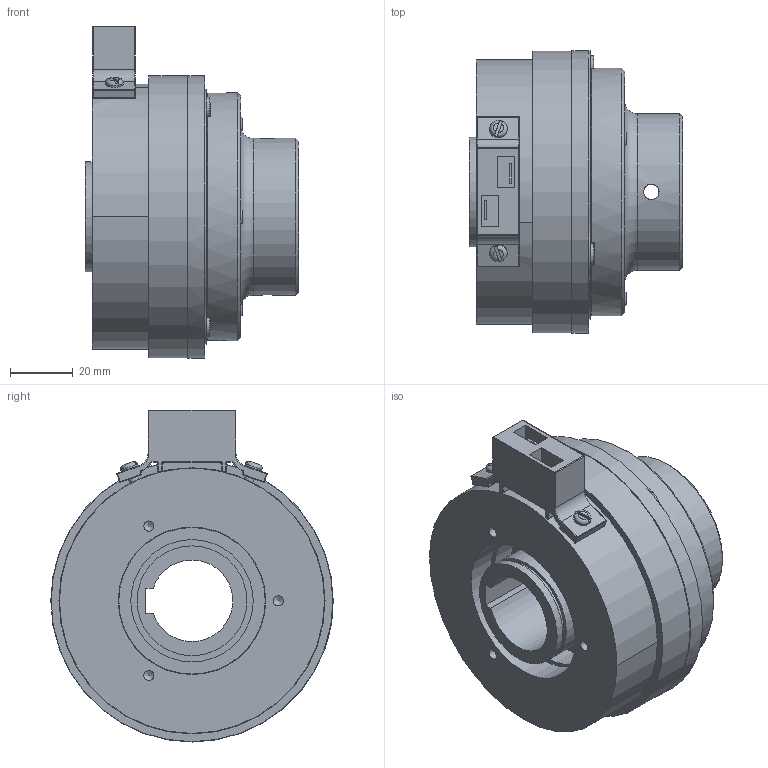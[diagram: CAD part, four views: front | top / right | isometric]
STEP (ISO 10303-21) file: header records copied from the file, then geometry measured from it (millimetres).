
FILE_DESCRIPTION(/* description */ (''),/* implementation_level */ '2;1');
FILE_NAME(/* name */ 'X:\INVENTOR\DISEGNI\08_Freni_Friz_Elettmag_Monodisco\08_26 EMSL_DF\EMSL_DF STEP\08_26_090_22 EMSL090_DF-BM-ME_S@STEP.stp',/* time_stamp */ '2018-04-24T08:56:14+02:00',/* author */ ('stefano'),/* organization */ (''),/* preprocessor_version */ 'ST-DEVELOPER v17',/* originating_system */ 'Autodesk Inventor 2018',/* authorisation */ '');
FILE_SCHEMA (('AUTOMOTIVE_DESIGN { 1 0 10303 214 3 1 1 }'));
Length unit declared in the file: millimetre
Products named in the file (1): 08_26_090_22 EMSL090_DF-BM-ME - Spina_Substitute_1
Bounding box: 68 x 90 x 105.8 mm (x, y, z)
Volume: 227656.2 mm3; surface area: 72106.2 mm2
Topology: 3 solids, 3 shells, 412 faces, 1090 edges, 701 vertices
Faces by surface type: cylinder 202, plane 132, torus 30, sphere 24, cone 24
Full cylindrical faces by diameter (mm): 1.5 x3, 3 x2, 3.242 x3, 4.917 x2, 5 x3, 5.1 x6, 5.6 x2, 6 x1, 7 x3, 8 x3, 9.5 x3, 33 x1, 35 x2, 39 x1, 46.7 x1, 47 x2, 49.5 x1, 50 x1, 54 x1, 79 x1, 80 x1, 84.8 x1, 89.8 x1, 90 x1
Entity records: 13606 total; most frequent: CARTESIAN_POINT 2569, DIRECTION 2422, ORIENTED_EDGE 2122, EDGE_CURVE 1061, AXIS2_PLACEMENT_3D 1001, VERTEX_POINT 701, CIRCLE 588, EDGE_LOOP 504
